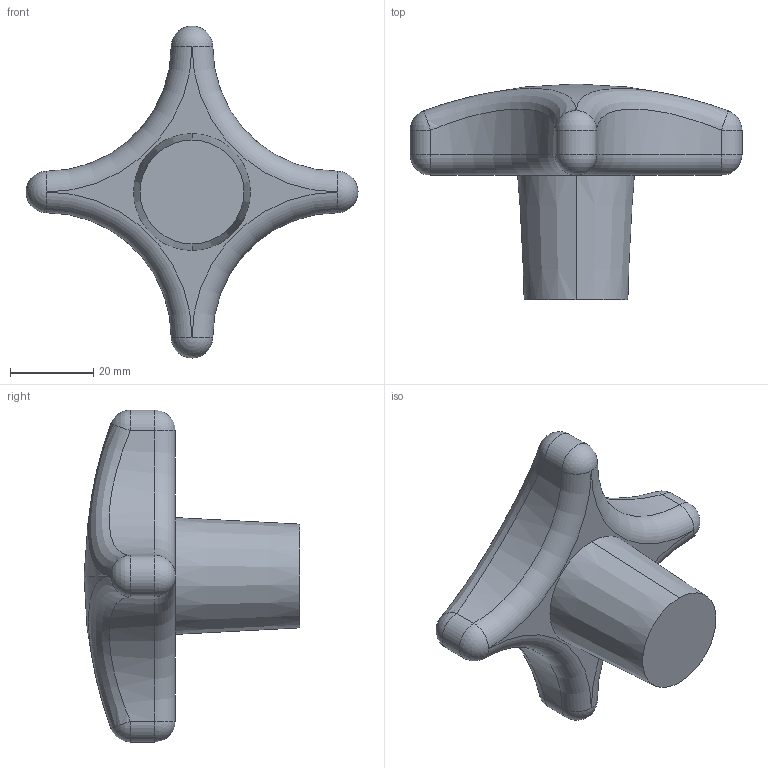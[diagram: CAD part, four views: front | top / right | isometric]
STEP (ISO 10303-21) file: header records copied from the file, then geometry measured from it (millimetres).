
FILE_DESCRIPTION (( 'STEP AP203' ), '1' );
FILE_NAME ('7000.W080.step', '2010-01-29T17:34:35', ( 'Wixroyd' ), ( 'Wixroyd' ), 'SwSTEP 2.0', 'SolidWorks 2009', '' );
FILE_SCHEMA (( 'CONFIG_CONTROL_DESIGN' ));
Length unit declared in the file: millimetre
Products named in the file (1): 7000.W080
Bounding box: 80 x 52 x 80 mm (x, y, z)
Volume: 58384.7 mm3; surface area: 10408 mm2
Topology: 1 solids, 1 shells, 31 faces, 63 edges, 31 vertices
Faces by surface type: sphere 10, cylinder 9, torus 4, bspline 4, cone 2, plane 2
Entity records: 3630 total; most frequent: CARTESIAN_POINT 2930, DIRECTION 147, ORIENTED_EDGE 118, AXIS2_PLACEMENT_3D 68, EDGE_CURVE 59, CIRCLE 40, EDGE_LOOP 32, ADVANCED_FACE 31
